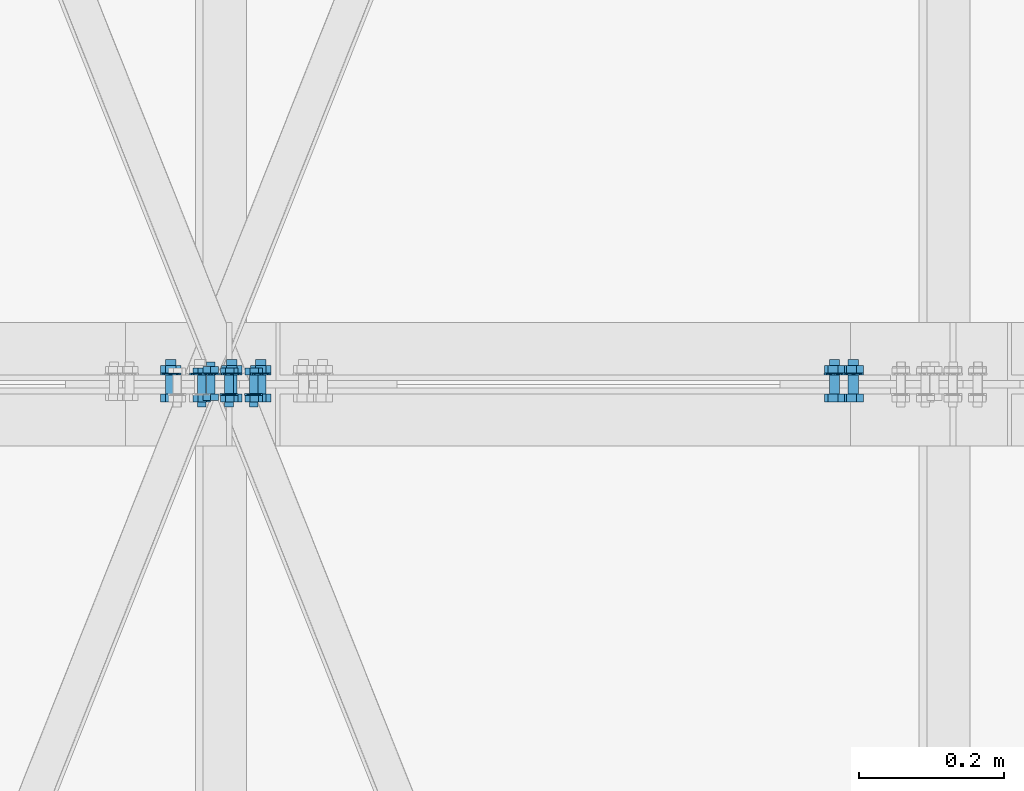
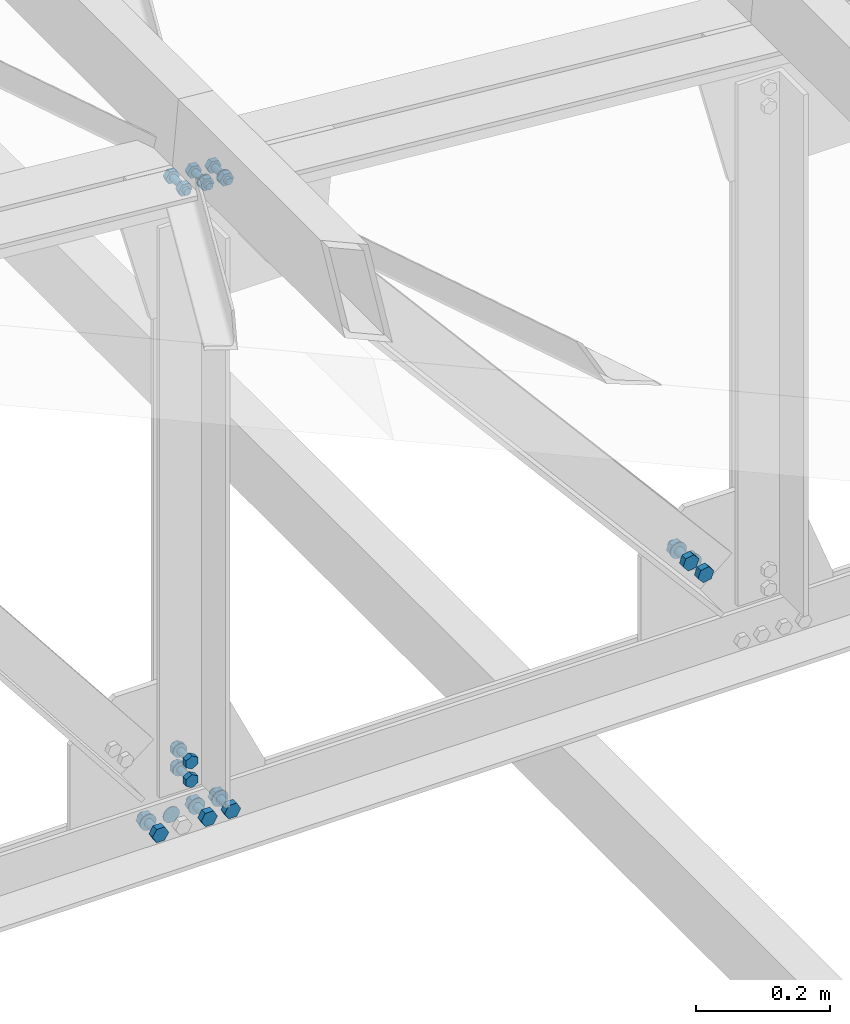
# One storey, part 176 of 251: 40 mechanical fasteners.
"""IFC4 building model written with IfcOpenShell, lengths in metres."""

from ifc_helpers import new_model, si_unit, frame, origin_with_axes, place, context, project, spatial, polyline, outline, extrude, type_object, element, save


model = new_model("IFC4")

# Units and contexts
model_context = context("Model", 3, precision=1e-05, world=origin_with_axes())
ifc_project = project(units=[si_unit("LENGTHUNIT", "METRE"), si_unit("AREAUNIT", "SQUARE_METRE"), si_unit("VOLUMEUNIT", "CUBIC_METRE"), si_unit("MASSUNIT", "GRAM", prefix="KILO"), si_unit("TIMEUNIT", "SECOND"), si_unit("PLANEANGLEUNIT", "RADIAN"), si_unit("SOLIDANGLEUNIT", "STERADIAN"), si_unit("THERMODYNAMICTEMPERATUREUNIT", "DEGREE_CELSIUS")], contexts=[model_context])

# Site, building, storey
placement_1 = place(None, origin_with_axes())
site = spatial("IfcSite", under=ifc_project, at=placement_1, Name="Italia", CompositionType="ELEMENT")
building = spatial("IfcBuilding", under=site, at=placement_1, Name="Deposito", CompositionType="ELEMENT")
storey = spatial("IfcBuildingStorey", under=building, at=placement_1, Name="Storey 0", CompositionType="ELEMENT", Elevation=0.0)

# Mechanical fasteners
mechanical_fastener_type_1 = type_object("IfcMechanicalFastenerType", Name="Reticolare 5", PredefinedType="BOLT")
placement_2 = place(placement_1, origin_with_axes())
mechanical_fastener_1_placement = place(placement_2, origin_with_axes())
element("IfcMechanicalFastener", 1, at=mechanical_fastener_1_placement, inside=storey, type_object=mechanical_fastener_type_1, Name="Reticolare 5", NominalDiameter=0.028, context=model_context, shape_type="SweptSolid", body=[
    extrude(outline(polyline([(0.0, 0.0), (-0.000476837, -0.00362349), (-0.00187492, -0.00699997), (-0.0041008, -0.00989962), (-0.00699997, -0.0121245), (-0.010376, -0.0135231), (-0.0139999, -0.0139999), (-0.0176239, -0.0135231), (-0.0209999, -0.0121245), (-0.0238991, -0.00989962), (-0.026125, -0.00699997), (-0.027523, -0.00362349), (-0.0279999, 0.0), (-0.027523, 0.00362349), (-0.026125, 0.00699997), (-0.0238991, 0.00989962), (-0.0209999, 0.0121245), (-0.0176239, 0.0135231), (-0.0139999, 0.0139999), (-0.010376, 0.0135231), (-0.00699997, 0.0121245), (-0.0041008, 0.00989962), (-0.00187492, 0.00699997), (-0.000476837, 0.00362349), (0.0, 0.0)])), frame((17.9996, 15.015, 5.009), z_axis=(0.0, -1.0, 0.0), x_axis=(1.0, 0.0, 0.0)), (0.0, 0.0, 1.0), 0.00200081),
])
mechanical_fastener_type_2 = type_object("IfcMechanicalFastenerType", Name="Reticolare 5", PredefinedType="BOLT")
mechanical_fastener_2_placement = place(placement_2, origin_with_axes())
element("IfcMechanicalFastener", 2, at=mechanical_fastener_2_placement, inside=storey, type_object=mechanical_fastener_type_2, Name="Reticolare 5", NominalDiameter=0.0139997, context=model_context, shape_type="SweptSolid", body=[
    extrude(outline(polyline([(0.0, 0.0), (-0.0139999, 0.0), (-0.0209999, 0.0121241), (-0.0139999, 0.0242486), (0.0, 0.0242486), (0.00699997, 0.0121241), (0.0, 0.0)])), frame((17.9526, 14.987, 4.99688), z_axis=(0.0, -1.0, 0.0), x_axis=(1.0, 0.0, 0.0)), (0.0, 0.0, 1.0), 0.0112009),
])
mechanical_fastener_type_3 = type_object("IfcMechanicalFastenerType", Name="Reticolare 5", PredefinedType="BOLT")
mechanical_fastener_3_placement = place(placement_2, origin_with_axes())
element("IfcMechanicalFastener", 3, at=mechanical_fastener_3_placement, inside=storey, type_object=mechanical_fastener_type_3, Name="Reticolare 5", NominalDiameter=0.014, context=model_context, shape_type="SweptSolid", body=[
    extrude(outline(polyline([(0.0, 0.0), (-0.000238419, -0.0018115), (-0.000938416, -0.00349998), (-0.0020504, -0.00494957), (-0.00349998, -0.00606203), (-0.00518799, -0.00676155), (-0.00699997, -0.00699997), (-0.00881195, -0.00676155), (-0.0105, -0.00606203), (-0.0119495, -0.00494957), (-0.0130615, -0.00349998), (-0.0137615, -0.0018115), (-0.0139999, 0.0), (-0.0137615, 0.0018115), (-0.0130615, 0.00349998), (-0.0119495, 0.00494957), (-0.0105, 0.00606203), (-0.00881195, 0.00676155), (-0.00699997, 0.00699997), (-0.00518799, 0.00676155), (-0.00349998, 0.00606203), (-0.0020504, 0.00494957), (-0.000938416, 0.00349998), (-0.000238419, 0.0018115), (0.0, 0.0)])), frame((17.9526, 15.034, 5.009), z_axis=(0.0, -1.0, 0.0), x_axis=(1.0, 0.0, 0.0)), (0.0, 0.0, 1.0), 0.0469999),
])
mechanical_fastener_type_4 = type_object("IfcMechanicalFastenerType", Name="Reticolare 5", PredefinedType="BOLT")
mechanical_fastener_4_placement = place(placement_2, origin_with_axes())
element("IfcMechanicalFastener", 4, at=mechanical_fastener_4_placement, inside=storey, type_object=mechanical_fastener_type_4, Name="Reticolare 5", NominalDiameter=0.0139997, context=model_context, shape_type="SweptSolid", body=[
    extrude(outline(polyline([(0.0, 0.0), (-0.0139999, 0.0), (-0.0209999, 0.0121241), (-0.0139999, 0.0242486), (0.0, 0.0242486), (0.00699997, 0.0121241), (0.0, 0.0)])), frame((17.9526, 15.0262, 4.99688), z_axis=(0.0, -1.0, 0.0), x_axis=(1.0, 0.0, 0.0)), (0.0, 0.0, 1.0), 0.0112),
])
mechanical_fastener_type_5 = type_object("IfcMechanicalFastenerType", Name="Reticolare 5", PredefinedType="BOLT")
mechanical_fastener_5_placement = place(placement_2, origin_with_axes())
element("IfcMechanicalFastener", 5, at=mechanical_fastener_5_placement, inside=storey, type_object=mechanical_fastener_type_5, Name="Reticolare 5", NominalDiameter=0.028, context=model_context, shape_type="SweptSolid", body=[
    extrude(outline(polyline([(0.0, 0.0), (-0.000476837, -0.00362349), (-0.00187492, -0.00699997), (-0.0041008, -0.00989962), (-0.00699997, -0.0121245), (-0.010376, -0.0135231), (-0.0139999, -0.0139999), (-0.0176239, -0.0135231), (-0.0209999, -0.0121245), (-0.0238991, -0.00989962), (-0.026125, -0.00699997), (-0.027523, -0.00362349), (-0.0279999, 0.0), (-0.027523, 0.00362349), (-0.026125, 0.00699997), (-0.0238991, 0.00989962), (-0.0209999, 0.0121245), (-0.0176239, 0.0135231), (-0.0139999, 0.0139999), (-0.010376, 0.0135231), (-0.00699997, 0.0121245), (-0.0041008, 0.00989962), (-0.00187492, 0.00699997), (-0.000476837, 0.00362349), (0.0, 0.0)])), frame((17.9596, 15.015, 5.009), z_axis=(0.0, -1.0, 0.0), x_axis=(1.0, 0.0, 0.0)), (0.0, 0.0, 1.0), 0.00200081),
])
mechanical_fastener_type_6 = type_object("IfcMechanicalFastenerType", Name="Reticolare 5", PredefinedType="BOLT")
mechanical_fastener_6_placement = place(placement_2, origin_with_axes())
element("IfcMechanicalFastener", 6, at=mechanical_fastener_6_placement, inside=storey, type_object=mechanical_fastener_type_6, Name="Reticolare 5", NominalDiameter=0.0139997, context=model_context, shape_type="SweptSolid", body=[
    extrude(outline(polyline([(0.0, 0.0), (-0.0139999, 0.0), (-0.0209999, 0.0121241), (-0.0139999, 0.0242486), (0.0, 0.0242486), (0.00699997, 0.0121241), (0.0, 0.0)])), frame((18.0366, 14.987, 4.99688), z_axis=(0.0, -1.0, 0.0), x_axis=(1.0, 0.0, 0.0)), (0.0, 0.0, 1.0), 0.0112009),
])
mechanical_fastener_type_7 = type_object("IfcMechanicalFastenerType", Name="Reticolare 5", PredefinedType="BOLT")
mechanical_fastener_7_placement = place(placement_2, origin_with_axes())
element("IfcMechanicalFastener", 7, at=mechanical_fastener_7_placement, inside=storey, type_object=mechanical_fastener_type_7, Name="Reticolare 5", NominalDiameter=0.014, context=model_context, shape_type="SweptSolid", body=[
    extrude(outline(polyline([(0.0, 0.0), (-0.000238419, -0.0018115), (-0.000938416, -0.00349998), (-0.0020504, -0.00494957), (-0.00349998, -0.00606203), (-0.00518799, -0.00676155), (-0.00699997, -0.00699997), (-0.00881195, -0.00676155), (-0.0105, -0.00606203), (-0.0119495, -0.00494957), (-0.0130615, -0.00349998), (-0.0137615, -0.0018115), (-0.0139999, 0.0), (-0.0137615, 0.0018115), (-0.0130615, 0.00349998), (-0.0119495, 0.00494957), (-0.0105, 0.00606203), (-0.00881195, 0.00676155), (-0.00699997, 0.00699997), (-0.00518799, 0.00676155), (-0.00349998, 0.00606203), (-0.0020504, 0.00494957), (-0.000938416, 0.00349998), (-0.000238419, 0.0018115), (0.0, 0.0)])), frame((18.0366, 15.034, 5.009), z_axis=(0.0, -1.0, 0.0), x_axis=(1.0, 0.0, 0.0)), (0.0, 0.0, 1.0), 0.0469999),
])
mechanical_fastener_type_8 = type_object("IfcMechanicalFastenerType", Name="Reticolare 5", PredefinedType="BOLT")
mechanical_fastener_8_placement = place(placement_2, origin_with_axes())
element("IfcMechanicalFastener", 8, at=mechanical_fastener_8_placement, inside=storey, type_object=mechanical_fastener_type_8, Name="Reticolare 5", NominalDiameter=0.0139997, context=model_context, shape_type="SweptSolid", body=[
    extrude(outline(polyline([(0.0, 0.0), (-0.0139999, 0.0), (-0.0209999, 0.0121241), (-0.0139999, 0.0242486), (0.0, 0.0242486), (0.00699997, 0.0121241), (0.0, 0.0)])), frame((18.0366, 15.0262, 4.99688), z_axis=(0.0, -1.0, 0.0), x_axis=(1.0, 0.0, 0.0)), (0.0, 0.0, 1.0), 0.0112),
])
mechanical_fastener_type_9 = type_object("IfcMechanicalFastenerType", Name="Reticolare 5", PredefinedType="BOLT")
mechanical_fastener_9_placement = place(placement_2, origin_with_axes())
element("IfcMechanicalFastener", 9, at=mechanical_fastener_9_placement, inside=storey, type_object=mechanical_fastener_type_9, Name="Reticolare 5", NominalDiameter=0.028, context=model_context, shape_type="SweptSolid", body=[
    extrude(outline(polyline([(0.0, 0.0), (-0.000476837, -0.00362349), (-0.00187492, -0.00699997), (-0.0041008, -0.00989962), (-0.00699997, -0.0121245), (-0.010376, -0.0135231), (-0.0139999, -0.0139999), (-0.0176239, -0.0135231), (-0.0209999, -0.0121245), (-0.0238991, -0.00989962), (-0.026125, -0.00699997), (-0.027523, -0.00362349), (-0.0279999, 0.0), (-0.027523, 0.00362349), (-0.026125, 0.00699997), (-0.0238991, 0.00989962), (-0.0209999, 0.0121245), (-0.0176239, 0.0135231), (-0.0139999, 0.0139999), (-0.010376, 0.0135231), (-0.00699997, 0.0121245), (-0.0041008, 0.00989962), (-0.00187492, 0.00699997), (-0.000476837, 0.00362349), (0.0, 0.0)])), frame((18.0436, 15.015, 5.009), z_axis=(0.0, -1.0, 0.0), x_axis=(1.0, 0.0, 0.0)), (0.0, 0.0, 1.0), 0.00200081),
])
mechanical_fastener_type_10 = type_object("IfcMechanicalFastenerType", Name="Reticolare 5", PredefinedType="BOLT")
mechanical_fastener_10_placement = place(placement_2, origin_with_axes())
element("IfcMechanicalFastener", 10, at=mechanical_fastener_10_placement, inside=storey, type_object=mechanical_fastener_type_10, Name="Reticolare 5", NominalDiameter=0.0139997, context=model_context, shape_type="SweptSolid", body=[
    extrude(outline(polyline([(0.0, 0.0), (-0.0139999, 0.0), (-0.0209999, 0.0121241), (-0.0139999, 0.0242486), (0.0, 0.0242486), (0.00699997, 0.0121241), (0.0, 0.0)])), frame((18.0766, 14.987, 4.99688), z_axis=(0.0, -1.0, 0.0), x_axis=(1.0, 0.0, 0.0)), (0.0, 0.0, 1.0), 0.0112009),
])
mechanical_fastener_type_11 = type_object("IfcMechanicalFastenerType", Name="Reticolare 5", PredefinedType="BOLT")
mechanical_fastener_11_placement = place(placement_2, origin_with_axes())
element("IfcMechanicalFastener", 11, at=mechanical_fastener_11_placement, inside=storey, type_object=mechanical_fastener_type_11, Name="Reticolare 5", NominalDiameter=0.014, context=model_context, shape_type="SweptSolid", body=[
    extrude(outline(polyline([(0.0, 0.0), (-0.000238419, -0.0018115), (-0.000938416, -0.00349998), (-0.0020504, -0.00494957), (-0.00349998, -0.00606203), (-0.00518799, -0.00676155), (-0.00699997, -0.00699997), (-0.00881195, -0.00676155), (-0.0105, -0.00606203), (-0.0119495, -0.00494957), (-0.0130615, -0.00349998), (-0.0137615, -0.0018115), (-0.0139999, 0.0), (-0.0137615, 0.0018115), (-0.0130615, 0.00349998), (-0.0119495, 0.00494957), (-0.0105, 0.00606203), (-0.00881195, 0.00676155), (-0.00699997, 0.00699997), (-0.00518799, 0.00676155), (-0.00349998, 0.00606203), (-0.0020504, 0.00494957), (-0.000938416, 0.00349998), (-0.000238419, 0.0018115), (0.0, 0.0)])), frame((18.0766, 15.034, 5.009), z_axis=(0.0, -1.0, 0.0), x_axis=(1.0, 0.0, 0.0)), (0.0, 0.0, 1.0), 0.0469999),
])
mechanical_fastener_type_12 = type_object("IfcMechanicalFastenerType", Name="Reticolare 5", PredefinedType="BOLT")
mechanical_fastener_12_placement = place(placement_2, origin_with_axes())
element("IfcMechanicalFastener", 12, at=mechanical_fastener_12_placement, inside=storey, type_object=mechanical_fastener_type_12, Name="Reticolare 5", NominalDiameter=0.0139997, context=model_context, shape_type="SweptSolid", body=[
    extrude(outline(polyline([(0.0, 0.0), (-0.0139999, 0.0), (-0.0209999, 0.0121241), (-0.0139999, 0.0242486), (0.0, 0.0242486), (0.00699997, 0.0121241), (0.0, 0.0)])), frame((18.0766, 15.0262, 4.99688), z_axis=(0.0, -1.0, 0.0), x_axis=(1.0, 0.0, 0.0)), (0.0, 0.0, 1.0), 0.0112),
])
mechanical_fastener_type_13 = type_object("IfcMechanicalFastenerType", Name="Reticolare 5", PredefinedType="BOLT")
mechanical_fastener_13_placement = place(placement_2, origin_with_axes())
element("IfcMechanicalFastener", 13, at=mechanical_fastener_13_placement, inside=storey, type_object=mechanical_fastener_type_13, Name="Reticolare 5", NominalDiameter=0.028, context=model_context, shape_type="SweptSolid", body=[
    extrude(outline(polyline([(0.0, 0.0), (-0.000476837, -0.00362349), (-0.00187492, -0.00699997), (-0.0041008, -0.00989962), (-0.00699997, -0.0121245), (-0.010376, -0.0135231), (-0.0139999, -0.0139999), (-0.0176239, -0.0135231), (-0.0209999, -0.0121245), (-0.0238991, -0.00989962), (-0.026125, -0.00699997), (-0.027523, -0.00362349), (-0.0279999, 0.0), (-0.027523, 0.00362349), (-0.026125, 0.00699997), (-0.0238991, 0.00989962), (-0.0209999, 0.0121245), (-0.0176239, 0.0135231), (-0.0139999, 0.0139999), (-0.010376, 0.0135231), (-0.00699997, 0.0121245), (-0.0041008, 0.00989962), (-0.00187492, 0.00699997), (-0.000476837, 0.00362349), (0.0, 0.0)])), frame((18.0836, 15.015, 5.009), z_axis=(0.0, -1.0, 0.0), x_axis=(1.0, 0.0, 0.0)), (0.0, 0.0, 1.0), 0.00200081),
])
mechanical_fastener_type_14 = type_object("IfcMechanicalFastenerType", Name="Reticolare 5", PredefinedType="BOLT")
mechanical_fastener_14_placement = place(placement_2, origin_with_axes())
element("IfcMechanicalFastener", 14, at=mechanical_fastener_14_placement, inside=storey, type_object=mechanical_fastener_type_14, Name="Reticolare 5", NominalDiameter=0.0120001, context=model_context, shape_type="SweptSolid", body=[
    extrude(outline(polyline([(0.0, 0.0), (0.0, -0.0120001), (-0.0103931, -0.0180001), (-0.0207863, -0.0120001), (-0.0207863, 0.0), (-0.0103931, 0.00600004), (0.0, 0.0)])), frame((18.011, 14.987, 5.09253), z_axis=(0.0, -1.0, 0.0), x_axis=(1.0, 0.0, 0.0)), (0.0, 0.0, 1.0), 0.00960064),
])
mechanical_fastener_type_15 = type_object("IfcMechanicalFastenerType", Name="Reticolare 5", PredefinedType="BOLT")
mechanical_fastener_15_placement = place(placement_2, origin_with_axes())
element("IfcMechanicalFastener", 15, at=mechanical_fastener_15_placement, inside=storey, type_object=mechanical_fastener_type_15, Name="Reticolare 5", NominalDiameter=0.012, context=model_context, shape_type="SweptSolid", body=[
    extrude(outline(polyline([(0.0, 0.0), (-0.000204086, -0.00155306), (-0.000804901, -0.00299978), (-0.00175858, -0.00424242), (-0.00300026, -0.00519609), (-0.00444794, -0.00579548), (-0.00600052, -0.00600004), (-0.0075531, -0.00579548), (-0.00900078, -0.00519609), (-0.0102425, -0.00424242), (-0.0111961, -0.00299978), (-0.011797, -0.00155306), (-0.012001, 0.0), (-0.011797, 0.00155306), (-0.0111961, 0.00299978), (-0.0102425, 0.00424242), (-0.00900078, 0.00519609), (-0.0075531, 0.00579548), (-0.00600052, 0.00600004), (-0.00444794, 0.00579548), (-0.00300026, 0.00519609), (-0.00175858, 0.00424242), (-0.000804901, 0.00299978), (-0.000204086, 0.00155306), (0.0, 0.0)])), frame((18.0066, 15.031, 5.08653), z_axis=(0.0, -1.0, 0.0), x_axis=(1.0, 0.0, 0.0)), (0.0, 0.0, 1.0), 0.0439997),
])
mechanical_fastener_type_16 = type_object("IfcMechanicalFastenerType", Name="Reticolare 5", PredefinedType="BOLT")
mechanical_fastener_16_placement = place(placement_2, origin_with_axes())
element("IfcMechanicalFastener", 16, at=mechanical_fastener_16_placement, inside=storey, type_object=mechanical_fastener_type_16, Name="Reticolare 5", NominalDiameter=0.0120001, context=model_context, shape_type="SweptSolid", body=[
    extrude(outline(polyline([(0.0, 0.0), (0.0, -0.0120001), (-0.0103931, -0.0180001), (-0.0207863, -0.0120001), (-0.0207863, 0.0), (-0.0103931, 0.00600004), (0.0, 0.0)])), frame((18.011, 15.0246, 5.09253), z_axis=(0.0, -1.0, 0.0), x_axis=(1.0, 0.0, 0.0)), (0.0, 0.0, 1.0), 0.00959969),
])
mechanical_fastener_type_17 = type_object("IfcMechanicalFastenerType", Name="Reticolare 5", PredefinedType="BOLT")
mechanical_fastener_17_placement = place(placement_2, origin_with_axes())
element("IfcMechanicalFastener", 17, at=mechanical_fastener_17_placement, inside=storey, type_object=mechanical_fastener_type_17, Name="Reticolare 5", NominalDiameter=0.024, context=model_context, shape_type="SweptSolid", body=[
    extrude(outline(polyline([(0.0, 0.0), (-0.000408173, -0.00310564), (-0.00160599, -0.00600004), (-0.00351334, -0.00848532), (-0.00599861, -0.0103922), (-0.00889397, -0.011591), (-0.0119991, -0.0120001), (-0.0151043, -0.011591), (-0.0179996, -0.0103922), (-0.0204849, -0.00848532), (-0.0223923, -0.00600004), (-0.0235901, -0.00310564), (-0.0239983, 0.0), (-0.0235901, 0.00310564), (-0.0223923, 0.00600004), (-0.0204849, 0.00848532), (-0.0179996, 0.0103922), (-0.0151043, 0.011591), (-0.0119991, 0.0120001), (-0.00889397, 0.011591), (-0.00599861, 0.0103922), (-0.00351334, 0.00848532), (-0.00160599, 0.00600004), (-0.000408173, 0.00310564), (0.0, 0.0)])), frame((18.0126, 15.015, 5.08653), z_axis=(0.0, -1.0, 0.0), x_axis=(1.0, 0.0, 0.0)), (0.0, 0.0, 1.0), 0.00200081),
])
mechanical_fastener_type_18 = type_object("IfcMechanicalFastenerType", Name="Reticolare 5", PredefinedType="BOLT")
mechanical_fastener_18_placement = place(placement_2, origin_with_axes())
element("IfcMechanicalFastener", 18, at=mechanical_fastener_18_placement, inside=storey, type_object=mechanical_fastener_type_18, Name="Reticolare 5", NominalDiameter=0.0120001, context=model_context, shape_type="SweptSolid", body=[
    extrude(outline(polyline([(0.0, 0.0), (0.0, -0.0120001), (-0.0103931, -0.0180001), (-0.0207863, -0.0120001), (-0.0207863, 0.0), (-0.0103931, 0.00600004), (0.0, 0.0)])), frame((18.011, 14.987, 5.12653), z_axis=(0.0, -1.0, 0.0), x_axis=(1.0, 0.0, 0.0)), (0.0, 0.0, 1.0), 0.00960064),
])
mechanical_fastener_type_19 = type_object("IfcMechanicalFastenerType", Name="Reticolare 5", PredefinedType="BOLT")
mechanical_fastener_19_placement = place(placement_2, origin_with_axes())
element("IfcMechanicalFastener", 19, at=mechanical_fastener_19_placement, inside=storey, type_object=mechanical_fastener_type_19, Name="Reticolare 5", NominalDiameter=0.012, context=model_context, shape_type="SweptSolid", body=[
    extrude(outline(polyline([(0.0, 0.0), (-0.000204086, -0.00155306), (-0.000804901, -0.00299978), (-0.00175858, -0.00424242), (-0.00300026, -0.00519609), (-0.00444794, -0.00579548), (-0.00600052, -0.00600004), (-0.0075531, -0.00579548), (-0.00900078, -0.00519609), (-0.0102425, -0.00424242), (-0.0111961, -0.00299978), (-0.011797, -0.00155306), (-0.012001, 0.0), (-0.011797, 0.00155306), (-0.0111961, 0.00299978), (-0.0102425, 0.00424242), (-0.00900078, 0.00519609), (-0.0075531, 0.00579548), (-0.00600052, 0.00600004), (-0.00444794, 0.00579548), (-0.00300026, 0.00519609), (-0.00175858, 0.00424242), (-0.000804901, 0.00299978), (-0.000204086, 0.00155306), (0.0, 0.0)])), frame((18.0066, 15.031, 5.12053), z_axis=(0.0, -1.0, 0.0), x_axis=(1.0, 0.0, 0.0)), (0.0, 0.0, 1.0), 0.0439997),
])
mechanical_fastener_type_20 = type_object("IfcMechanicalFastenerType", Name="Reticolare 5", PredefinedType="BOLT")
mechanical_fastener_20_placement = place(placement_2, origin_with_axes())
element("IfcMechanicalFastener", 20, at=mechanical_fastener_20_placement, inside=storey, type_object=mechanical_fastener_type_20, Name="Reticolare 5", NominalDiameter=0.0120001, context=model_context, shape_type="SweptSolid", body=[
    extrude(outline(polyline([(0.0, 0.0), (0.0, -0.0120001), (-0.0103931, -0.0180001), (-0.0207863, -0.0120001), (-0.0207863, 0.0), (-0.0103931, 0.00600004), (0.0, 0.0)])), frame((18.011, 15.0246, 5.12653), z_axis=(0.0, -1.0, 0.0), x_axis=(1.0, 0.0, 0.0)), (0.0, 0.0, 1.0), 0.00959969),
])
mechanical_fastener_type_21 = type_object("IfcMechanicalFastenerType", Name="Reticolare 5", PredefinedType="BOLT")
mechanical_fastener_21_placement = place(placement_2, origin_with_axes())
element("IfcMechanicalFastener", 21, at=mechanical_fastener_21_placement, inside=storey, type_object=mechanical_fastener_type_21, Name="Reticolare 5", NominalDiameter=0.024, context=model_context, shape_type="SweptSolid", body=[
    extrude(outline(polyline([(0.0, 0.0), (-0.000408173, -0.00310564), (-0.00160599, -0.00600004), (-0.00351334, -0.00848532), (-0.00599861, -0.0103922), (-0.00889397, -0.011591), (-0.0119991, -0.0120001), (-0.0151043, -0.011591), (-0.0179996, -0.0103922), (-0.0204849, -0.00848532), (-0.0223923, -0.00600004), (-0.0235901, -0.00310564), (-0.0239983, 0.0), (-0.0235901, 0.00310564), (-0.0223923, 0.00600004), (-0.0204849, 0.00848532), (-0.0179996, 0.0103922), (-0.0151043, 0.011591), (-0.0119991, 0.0120001), (-0.00889397, 0.011591), (-0.00599861, 0.0103922), (-0.00351334, 0.00848532), (-0.00160599, 0.00600004), (-0.000408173, 0.00310564), (0.0, 0.0)])), frame((18.0126, 15.015, 5.12053), z_axis=(0.0, -1.0, 0.0), x_axis=(1.0, 0.0, 0.0)), (0.0, 0.0, 1.0), 0.00200081),
])
mechanical_fastener_type_22 = type_object("IfcMechanicalFastenerType", Name="Reticolare 5", PredefinedType="BOLT")
mechanical_fastener_22_placement = place(placement_2, origin_with_axes())
element("IfcMechanicalFastener", 22, at=mechanical_fastener_22_placement, inside=storey, type_object=mechanical_fastener_type_22, Name="Reticolare 5", NominalDiameter=0.0139996, context=model_context, shape_type="SweptSolid", body=[
    extrude(outline(polyline([(0.0, 0.0), (-0.00905609, 0.0106759), (-0.00433922, 0.0238571), (0.00943565, 0.0263624), (0.0184917, 0.0156865), (0.0137749, 0.0025053), (0.0, 0.0)])), frame((18.8804, 14.987, 5.1407), z_axis=(0.0, -1.0, 0.0), x_axis=(1.0, 0.0, 0.0)), (0.0, 0.0, 1.0), 0.0112009),
])
mechanical_fastener_type_23 = type_object("IfcMechanicalFastenerType", Name="Reticolare 5", PredefinedType="BOLT")
mechanical_fastener_23_placement = place(placement_2, origin_with_axes())
element("IfcMechanicalFastener", 23, at=mechanical_fastener_23_placement, inside=storey, type_object=mechanical_fastener_type_23, Name="Reticolare 5", NominalDiameter=0.014, context=model_context, shape_type="SweptSolid", body=[
    extrude(outline(polyline([(0.0, 0.0), (-0.000238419, -0.0018115), (-0.000938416, -0.00349998), (-0.0020504, -0.00494957), (-0.00349998, -0.00606203), (-0.00518799, -0.00676155), (-0.00699997, -0.00699997), (-0.00881195, -0.00676155), (-0.0105, -0.00606203), (-0.0119495, -0.00494957), (-0.0130615, -0.00349998), (-0.0137615, -0.0018115), (-0.0139999, 0.0), (-0.0137615, 0.0018115), (-0.0130615, 0.00349998), (-0.0119495, 0.00494957), (-0.0105, 0.00606203), (-0.00881195, 0.00676155), (-0.00699997, 0.00699997), (-0.00518799, 0.00676155), (-0.00349998, 0.00606203), (-0.0020504, 0.00494957), (-0.000938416, 0.00349998), (-0.000238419, 0.0018115), (0.0, 0.0)])), frame((18.8921, 15.034, 5.15388), z_axis=(0.0, -1.0, 0.0), x_axis=(1.0, 0.0, 0.0)), (0.0, 0.0, 1.0), 0.0469999),
])
mechanical_fastener_type_24 = type_object("IfcMechanicalFastenerType", Name="Reticolare 5", PredefinedType="BOLT")
mechanical_fastener_24_placement = place(placement_2, origin_with_axes())
element("IfcMechanicalFastener", 24, at=mechanical_fastener_24_placement, inside=storey, type_object=mechanical_fastener_type_24, Name="Reticolare 5", NominalDiameter=0.0139996, context=model_context, shape_type="SweptSolid", body=[
    extrude(outline(polyline([(0.0, 0.0), (-0.00905609, 0.0106759), (-0.00433922, 0.0238571), (0.00943565, 0.0263624), (0.0184917, 0.0156865), (0.0137749, 0.0025053), (0.0, 0.0)])), frame((18.8804, 15.0262, 5.1407), z_axis=(0.0, -1.0, 0.0), x_axis=(1.0, 0.0, 0.0)), (0.0, 0.0, 1.0), 0.0112),
])
mechanical_fastener_type_25 = type_object("IfcMechanicalFastenerType", Name="Reticolare 5", PredefinedType="BOLT")
mechanical_fastener_25_placement = place(placement_2, origin_with_axes())
element("IfcMechanicalFastener", 25, at=mechanical_fastener_25_placement, inside=storey, type_object=mechanical_fastener_type_25, Name="Reticolare 5", NominalDiameter=0.028, context=model_context, shape_type="SweptSolid", body=[
    extrude(outline(polyline([(0.0, 0.0), (-0.000476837, -0.00362349), (-0.00187492, -0.00699997), (-0.0041008, -0.00989962), (-0.00699997, -0.0121245), (-0.010376, -0.0135231), (-0.0139999, -0.0139999), (-0.0176239, -0.0135231), (-0.0209999, -0.0121245), (-0.0238991, -0.00989962), (-0.026125, -0.00699997), (-0.027523, -0.00362349), (-0.0279999, 0.0), (-0.027523, 0.00362349), (-0.026125, 0.00699997), (-0.0238991, 0.00989962), (-0.0209999, 0.0121245), (-0.0176239, 0.0135231), (-0.0139999, 0.0139999), (-0.010376, 0.0135231), (-0.00699997, 0.0121245), (-0.0041008, 0.00989962), (-0.00187492, 0.00699997), (-0.000476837, 0.00362349), (0.0, 0.0)])), frame((18.8991, 15.015, 5.15388), z_axis=(0.0, -1.0, 0.0), x_axis=(1.0, 0.0, 0.0)), (0.0, 0.0, 1.0), 0.00200081),
])
mechanical_fastener_type_26 = type_object("IfcMechanicalFastenerType", Name="Reticolare 5", PredefinedType="BOLT")
mechanical_fastener_26_placement = place(placement_2, origin_with_axes())
element("IfcMechanicalFastener", 26, at=mechanical_fastener_26_placement, inside=storey, type_object=mechanical_fastener_type_26, Name="Reticolare 5", NominalDiameter=0.013999, context=model_context, shape_type="SweptSolid", body=[
    extrude(outline(polyline([(0.0, 0.0), (-0.009058, 0.0106759), (-0.00433922, 0.0238571), (0.00943375, 0.0263624), (0.0184917, 0.0156865), (0.013773, 0.0025053), (0.0, 0.0)])), frame((18.8545, 14.987, 5.1712), z_axis=(0.0, -1.0, 0.0), x_axis=(1.0, 0.0, 0.0)), (0.0, 0.0, 1.0), 0.0112009),
])
mechanical_fastener_type_27 = type_object("IfcMechanicalFastenerType", Name="Reticolare 5", PredefinedType="BOLT")
mechanical_fastener_27_placement = place(placement_2, origin_with_axes())
element("IfcMechanicalFastener", 27, at=mechanical_fastener_27_placement, inside=storey, type_object=mechanical_fastener_type_27, Name="Reticolare 5", NominalDiameter=0.014, context=model_context, shape_type="SweptSolid", body=[
    extrude(outline(polyline([(0.0, 0.0), (-0.000238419, -0.0018115), (-0.000938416, -0.00349998), (-0.0020504, -0.00494957), (-0.00349998, -0.00606203), (-0.00518799, -0.00676155), (-0.00699997, -0.00699997), (-0.00881195, -0.00676155), (-0.0105, -0.00606203), (-0.0119495, -0.00494957), (-0.0130615, -0.00349998), (-0.0137615, -0.0018115), (-0.0139999, 0.0), (-0.0137615, 0.0018115), (-0.0130615, 0.00349998), (-0.0119495, 0.00494957), (-0.0105, 0.00606203), (-0.00881195, 0.00676155), (-0.00699997, 0.00699997), (-0.00518799, 0.00676155), (-0.00349998, 0.00606203), (-0.0020504, 0.00494957), (-0.000938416, 0.00349998), (-0.000238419, 0.0018115), (0.0, 0.0)])), frame((18.8662, 15.034, 5.18438), z_axis=(0.0, -1.0, 0.0), x_axis=(1.0, 0.0, 0.0)), (0.0, 0.0, 1.0), 0.0469999),
])
mechanical_fastener_type_28 = type_object("IfcMechanicalFastenerType", Name="Reticolare 5", PredefinedType="BOLT")
mechanical_fastener_28_placement = place(placement_2, origin_with_axes())
element("IfcMechanicalFastener", 28, at=mechanical_fastener_28_placement, inside=storey, type_object=mechanical_fastener_type_28, Name="Reticolare 5", NominalDiameter=0.013999, context=model_context, shape_type="SweptSolid", body=[
    extrude(outline(polyline([(0.0, 0.0), (-0.009058, 0.0106759), (-0.00433922, 0.0238571), (0.00943375, 0.0263624), (0.0184917, 0.0156865), (0.013773, 0.0025053), (0.0, 0.0)])), frame((18.8545, 15.0262, 5.1712), z_axis=(0.0, -1.0, 0.0), x_axis=(1.0, 0.0, 0.0)), (0.0, 0.0, 1.0), 0.0112),
])
mechanical_fastener_type_29 = type_object("IfcMechanicalFastenerType", Name="Reticolare 5", PredefinedType="BOLT")
mechanical_fastener_29_placement = place(placement_2, origin_with_axes())
element("IfcMechanicalFastener", 29, at=mechanical_fastener_29_placement, inside=storey, type_object=mechanical_fastener_type_29, Name="Reticolare 5", NominalDiameter=0.028, context=model_context, shape_type="SweptSolid", body=[
    extrude(outline(polyline([(0.0, 0.0), (-0.000476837, -0.00362349), (-0.00187492, -0.00699997), (-0.0041008, -0.00989962), (-0.00699997, -0.0121245), (-0.010376, -0.0135231), (-0.0139999, -0.0139999), (-0.0176239, -0.0135231), (-0.0209999, -0.0121245), (-0.0238991, -0.00989962), (-0.026125, -0.00699997), (-0.027523, -0.00362349), (-0.0279999, 0.0), (-0.027523, 0.00362349), (-0.026125, 0.00699997), (-0.0238991, 0.00989962), (-0.0209999, 0.0121245), (-0.0176239, 0.0135231), (-0.0139999, 0.0139999), (-0.010376, 0.0135231), (-0.00699997, 0.0121245), (-0.0041008, 0.00989962), (-0.00187492, 0.00699997), (-0.000476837, 0.00362349), (0.0, 0.0)])), frame((18.8732, 15.015, 5.18438), z_axis=(0.0, -1.0, 0.0), x_axis=(1.0, 0.0, 0.0)), (0.0, 0.0, 1.0), 0.00200081),
])
mechanical_fastener_type_30 = type_object("IfcMechanicalFastenerType", Name="Reticolare 5", PredefinedType="BOLT")
mechanical_fastener_30_placement = place(placement_2, origin_with_axes())
element("IfcMechanicalFastener", 30, at=mechanical_fastener_30_placement, inside=storey, type_object=mechanical_fastener_type_30, Name="Reticolare 5", NominalDiameter=0.011999, context=model_context, shape_type="SweptSolid", body=[
    extrude(outline(polyline([(0.0, 0.0), (0.0119534, 0.0010457), (0.018837, -0.00878429), (0.0137653, -0.01966), (0.00181007, -0.0207057), (-0.00507164, -0.0108757), (0.0, 0.0)])), frame((18.0328, 15.013, 6.17551), z_axis=(0.0, 1.0, 0.0), x_axis=(-1.0, 0.0, 0.0)), (0.0, 0.0, 1.0), 0.00960064),
])
mechanical_fastener_type_31 = type_object("IfcMechanicalFastenerType", Name="Reticolare 5", PredefinedType="BOLT")
mechanical_fastener_31_placement = place(placement_2, origin_with_axes())
element("IfcMechanicalFastener", 31, at=mechanical_fastener_31_placement, inside=storey, type_object=mechanical_fastener_type_31, Name="Reticolare 5", NominalDiameter=0.012, context=model_context, shape_type="SweptSolid", body=[
    extrude(outline(polyline([(0.0, 0.0), (-0.000204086, -0.00155306), (-0.000804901, -0.00299978), (-0.00175858, -0.00424242), (-0.00300026, -0.00519609), (-0.00444794, -0.00579548), (-0.00600052, -0.00600004), (-0.0075531, -0.00579548), (-0.00900078, -0.00519609), (-0.0102425, -0.00424242), (-0.0111961, -0.00299978), (-0.011797, -0.00155306), (-0.012001, 0.0), (-0.011797, 0.00155306), (-0.0111961, 0.00299978), (-0.0102425, 0.00424242), (-0.00900078, 0.00519609), (-0.0075531, 0.00579548), (-0.00600052, 0.00600004), (-0.00444794, 0.00579548), (-0.00300026, 0.00519609), (-0.00175858, 0.00424242), (-0.000804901, 0.00299978), (-0.000204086, 0.00155306), (0.0, 0.0)])), frame((18.0199, 14.969, 6.16568), z_axis=(0.0, 1.0, 0.0), x_axis=(-1.0, 0.0, 0.0)), (0.0, 0.0, 1.0), 0.0439997),
])
mechanical_fastener_type_32 = type_object("IfcMechanicalFastenerType", Name="Reticolare 5", PredefinedType="BOLT")
mechanical_fastener_32_placement = place(placement_2, origin_with_axes())
element("IfcMechanicalFastener", 32, at=mechanical_fastener_32_placement, inside=storey, type_object=mechanical_fastener_type_32, Name="Reticolare 5", NominalDiameter=0.011999, context=model_context, shape_type="SweptSolid", body=[
    extrude(outline(polyline([(0.0, 0.0), (0.0119534, 0.0010457), (0.018837, -0.00878429), (0.0137653, -0.01966), (0.00181007, -0.0207057), (-0.00507164, -0.0108757), (0.0, 0.0)])), frame((18.0328, 14.9754, 6.17551), z_axis=(0.0, 1.0, 0.0), x_axis=(-1.0, 0.0, 0.0)), (0.0, 0.0, 1.0), 0.00959969),
])
mechanical_fastener_type_33 = type_object("IfcMechanicalFastenerType", Name="Reticolare 5", PredefinedType="BOLT")
mechanical_fastener_33_placement = place(placement_2, origin_with_axes())
element("IfcMechanicalFastener", 33, at=mechanical_fastener_33_placement, inside=storey, type_object=mechanical_fastener_type_33, Name="Reticolare 5", NominalDiameter=0.024, context=model_context, shape_type="SweptSolid", body=[
    extrude(outline(polyline([(0.0, 0.0), (-0.000408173, -0.00310564), (-0.00160599, -0.00600004), (-0.00351334, -0.00848532), (-0.00599861, -0.0103922), (-0.00889397, -0.011591), (-0.0119991, -0.0120001), (-0.0151043, -0.011591), (-0.0179996, -0.0103922), (-0.0204849, -0.00848532), (-0.0223923, -0.00600004), (-0.0235901, -0.00310564), (-0.0239983, 0.0), (-0.0235901, 0.00310564), (-0.0223923, 0.00600004), (-0.0204849, 0.00848532), (-0.0179996, 0.0103922), (-0.0151043, 0.011591), (-0.0119991, 0.0120001), (-0.00889397, 0.011591), (-0.00599861, 0.0103922), (-0.00351334, 0.00848532), (-0.00160599, 0.00600004), (-0.000408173, 0.00310564), (0.0, 0.0)])), frame((18.0139, 14.985, 6.16568), z_axis=(0.0, 1.0, 0.0), x_axis=(-1.0, 0.0, 0.0)), (0.0, 0.0, 1.0), 0.00200081),
])
mechanical_fastener_type_34 = type_object("IfcMechanicalFastenerType", Name="Reticolare 5", PredefinedType="BOLT")
mechanical_fastener_34_placement = place(placement_2, origin_with_axes())
element("IfcMechanicalFastener", 34, at=mechanical_fastener_34_placement, inside=storey, type_object=mechanical_fastener_type_34, Name="Reticolare 5", NominalDiameter=0.011999, context=model_context, shape_type="SweptSolid", body=[
    extrude(outline(polyline([(0.0, 0.0), (0.0119534, 0.0010457), (0.018837, -0.00878382), (0.0137653, -0.0196595), (0.00181007, -0.0207052), (-0.00507164, -0.0108757), (0.0, 0.0)])), frame((18.0667, 15.013, 6.17255), z_axis=(0.0, 1.0, 0.0), x_axis=(-1.0, 0.0, 0.0)), (0.0, 0.0, 1.0), 0.00960064),
])
mechanical_fastener_type_35 = type_object("IfcMechanicalFastenerType", Name="Reticolare 5", PredefinedType="BOLT")
mechanical_fastener_35_placement = place(placement_2, origin_with_axes())
element("IfcMechanicalFastener", 35, at=mechanical_fastener_35_placement, inside=storey, type_object=mechanical_fastener_type_35, Name="Reticolare 5", NominalDiameter=0.012, context=model_context, shape_type="SweptSolid", body=[
    extrude(outline(polyline([(0.0, 0.0), (-0.000204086, -0.00155306), (-0.000804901, -0.00299978), (-0.00175858, -0.00424242), (-0.00300026, -0.00519609), (-0.00444794, -0.00579548), (-0.00600052, -0.00600004), (-0.0075531, -0.00579548), (-0.00900078, -0.00519609), (-0.0102425, -0.00424242), (-0.0111961, -0.00299978), (-0.011797, -0.00155306), (-0.012001, 0.0), (-0.011797, 0.00155306), (-0.0111961, 0.00299978), (-0.0102425, 0.00424242), (-0.00900078, 0.00519609), (-0.0075531, 0.00579548), (-0.00600052, 0.00600004), (-0.00444794, 0.00579548), (-0.00300026, 0.00519609), (-0.00175858, 0.00424242), (-0.000804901, 0.00299978), (-0.000204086, 0.00155306), (0.0, 0.0)])), frame((18.0538, 14.969, 6.16272), z_axis=(0.0, 1.0, 0.0), x_axis=(-1.0, 0.0, 0.0)), (0.0, 0.0, 1.0), 0.0439997),
])
mechanical_fastener_type_36 = type_object("IfcMechanicalFastenerType", Name="Reticolare 5", PredefinedType="BOLT")
mechanical_fastener_36_placement = place(placement_2, origin_with_axes())
element("IfcMechanicalFastener", 36, at=mechanical_fastener_36_placement, inside=storey, type_object=mechanical_fastener_type_36, Name="Reticolare 5", NominalDiameter=0.011999, context=model_context, shape_type="SweptSolid", body=[
    extrude(outline(polyline([(0.0, 0.0), (0.0119534, 0.0010457), (0.018837, -0.00878382), (0.0137653, -0.0196595), (0.00181007, -0.0207052), (-0.00507164, -0.0108757), (0.0, 0.0)])), frame((18.0667, 14.9754, 6.17255), z_axis=(0.0, 1.0, 0.0), x_axis=(-1.0, 0.0, 0.0)), (0.0, 0.0, 1.0), 0.00959969),
])
mechanical_fastener_type_37 = type_object("IfcMechanicalFastenerType", Name="Reticolare 5", PredefinedType="BOLT")
mechanical_fastener_37_placement = place(placement_2, origin_with_axes())
element("IfcMechanicalFastener", 37, at=mechanical_fastener_37_placement, inside=storey, type_object=mechanical_fastener_type_37, Name="Reticolare 5", NominalDiameter=0.024, context=model_context, shape_type="SweptSolid", body=[
    extrude(outline(polyline([(0.0, 0.0), (-0.000408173, -0.00310564), (-0.00160599, -0.00600004), (-0.00351334, -0.00848532), (-0.00599861, -0.0103922), (-0.00889397, -0.011591), (-0.0119991, -0.0120001), (-0.0151043, -0.011591), (-0.0179996, -0.0103922), (-0.0204849, -0.00848532), (-0.0223923, -0.00600004), (-0.0235901, -0.00310564), (-0.0239983, 0.0), (-0.0235901, 0.00310564), (-0.0223923, 0.00600004), (-0.0204849, 0.00848532), (-0.0179996, 0.0103922), (-0.0151043, 0.011591), (-0.0119991, 0.0120001), (-0.00889397, 0.011591), (-0.00599861, 0.0103922), (-0.00351334, 0.00848532), (-0.00160599, 0.00600004), (-0.000408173, 0.00310564), (0.0, 0.0)])), frame((18.0478, 14.985, 6.16272), z_axis=(0.0, 1.0, 0.0), x_axis=(-1.0, 0.0, 0.0)), (0.0, 0.0, 1.0), 0.00200081),
])
mechanical_fastener_type_38 = type_object("IfcMechanicalFastenerType", Name="Reticolare 5", PredefinedType="BOLT")
mechanical_fastener_38_placement = place(placement_2, origin_with_axes())
element("IfcMechanicalFastener", 38, at=mechanical_fastener_38_placement, inside=storey, type_object=mechanical_fastener_type_38, Name="Reticolare 5", NominalDiameter=0.011999, context=model_context, shape_type="SweptSolid", body=[
    extrude(outline(polyline([(0.0, 0.0), (0.0119534, 0.00104618), (0.018837, -0.00878382), (0.0137653, -0.0196595), (0.00181198, -0.0207052), (-0.00507164, -0.0108757), (0.0, 0.0)])), frame((17.995, 15.013, 6.17882), z_axis=(0.0, 1.0, 0.0), x_axis=(-1.0, 0.0, 0.0)), (0.0, 0.0, 1.0), 0.00960064),
])
mechanical_fastener_type_39 = type_object("IfcMechanicalFastenerType", Name="Reticolare 5", PredefinedType="BOLT")
mechanical_fastener_39_placement = place(placement_2, origin_with_axes())
element("IfcMechanicalFastener", 39, at=mechanical_fastener_39_placement, inside=storey, type_object=mechanical_fastener_type_39, Name="Reticolare 5", NominalDiameter=0.012, context=model_context, shape_type="SweptSolid", body=[
    extrude(outline(polyline([(0.0, 0.0), (-0.000204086, -0.00155306), (-0.000804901, -0.00299978), (-0.00175858, -0.00424242), (-0.00300026, -0.00519609), (-0.00444794, -0.00579548), (-0.00600052, -0.00600004), (-0.0075531, -0.00579548), (-0.00900078, -0.00519609), (-0.0102425, -0.00424242), (-0.0111961, -0.00299978), (-0.011797, -0.00155306), (-0.012001, 0.0), (-0.011797, 0.00155306), (-0.0111961, 0.00299978), (-0.0102425, 0.00424242), (-0.00900078, 0.00519609), (-0.0075531, 0.00579548), (-0.00600052, 0.00600004), (-0.00444794, 0.00579548), (-0.00300026, 0.00519609), (-0.00175858, 0.00424242), (-0.000804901, 0.00299978), (-0.000204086, 0.00155306), (0.0, 0.0)])), frame((17.9821, 14.969, 6.16899), z_axis=(0.0, 1.0, 0.0), x_axis=(-1.0, 0.0, 0.0)), (0.0, 0.0, 1.0), 0.0439997),
])
mechanical_fastener_type_40 = type_object("IfcMechanicalFastenerType", Name="Reticolare 5", PredefinedType="BOLT")
mechanical_fastener_40_placement = place(placement_2, origin_with_axes())
element("IfcMechanicalFastener", 40, at=mechanical_fastener_40_placement, inside=storey, type_object=mechanical_fastener_type_40, Name="Reticolare 5", NominalDiameter=0.011999, context=model_context, shape_type="SweptSolid", body=[
    extrude(outline(polyline([(0.0, 0.0), (0.0119534, 0.00104618), (0.018837, -0.00878382), (0.0137653, -0.0196595), (0.00181198, -0.0207052), (-0.00507164, -0.0108757), (0.0, 0.0)])), frame((17.995, 14.9754, 6.17882), z_axis=(0.0, 1.0, 0.0), x_axis=(-1.0, 0.0, 0.0)), (0.0, 0.0, 1.0), 0.00959969),
])

save(model, "model.ifc")
